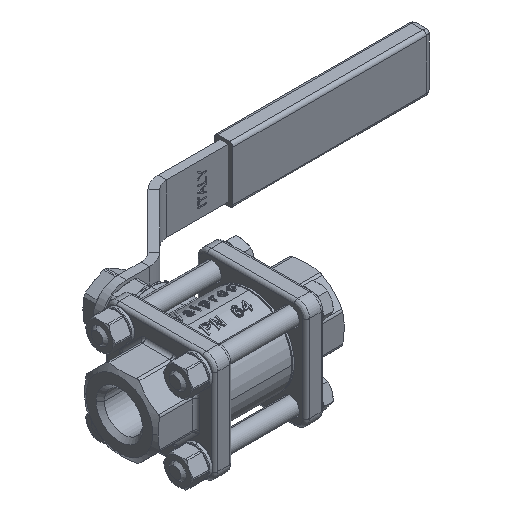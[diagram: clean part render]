
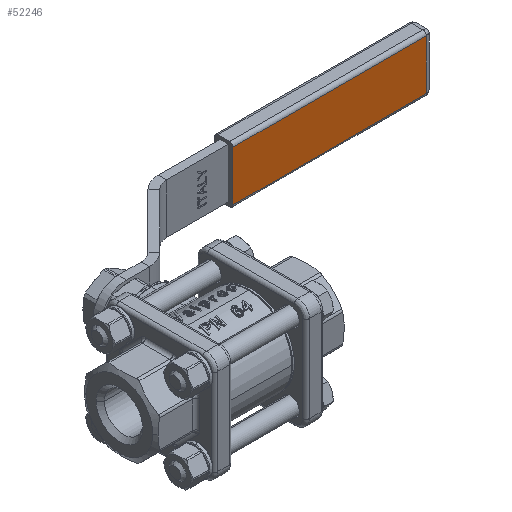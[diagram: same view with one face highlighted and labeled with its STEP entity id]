
A CAD part, isometric view. The second image highlights one B-rep face of the part: STEP entity #52246.
In plain terms, the highlighted planar face has unit normal (0, -1, 0).
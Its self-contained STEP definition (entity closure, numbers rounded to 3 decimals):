
#6777 = CARTESIAN_POINT ( 'NONE',  ( 108.5, 44.95, -7.5 ) ) ;
#6829 = CARTESIAN_POINT ( 'NONE',  ( 50.5, 44.95, -7.5 ) ) ;
#7060 = CARTESIAN_POINT ( 'NONE',  ( 108.5, 44.95, 7.5 ) ) ;
#7298 = CARTESIAN_POINT ( 'NONE',  ( 50.5, 44.95, 7.5 ) ) ;
#7299 = DIRECTION ( 'NONE',  ( -1., 0., 0. ) ) ;
#7300 = VECTOR ( 'NONE', #7299, 1000. ) ;
#7301 = CARTESIAN_POINT ( 'NONE',  ( 50.5, 44.95, 7.5 ) ) ;
#7307 = LINE ( 'NONE', #7301, #7300 ) ;
#7313 = DIRECTION ( 'NONE',  ( 0., 0., 1. ) ) ;
#7314 = VECTOR ( 'NONE', #7313, 1000. ) ;
#7315 = CARTESIAN_POINT ( 'NONE',  ( 108.5, 44.95, 7.5 ) ) ;
#7320 = LINE ( 'NONE', #7315, #7314 ) ;
#7324 = DIRECTION ( 'NONE',  ( 0., 0., 1. ) ) ;
#7325 = VECTOR ( 'NONE', #7324, 1000. ) ;
#7326 = CARTESIAN_POINT ( 'NONE',  ( 50.5, 44.95, -8.5 ) ) ;
#7327 = LINE ( 'NONE', #7326, #7325 ) ;
#7328 = DIRECTION ( 'NONE',  ( 0., 0., -1. ) ) ;
#7329 = DIRECTION ( 'NONE',  ( 0., -1., 0. ) ) ;
#7330 = CARTESIAN_POINT ( 'NONE',  ( 50.5, 44.95, 7.5 ) ) ;
#7331 = AXIS2_PLACEMENT_3D ( 'NONE', #7330, #7329, #7328 ) ;
#7332 = PLANE ( 'NONE',  #7331 ) ;
#7333 = FACE_OUTER_BOUND ( 'NONE', #52249, .T. ) ;
#7343 = DIRECTION ( 'NONE',  ( 1., 0., 0. ) ) ;
#7344 = VECTOR ( 'NONE', #7343, 1000. ) ;
#7345 = CARTESIAN_POINT ( 'NONE',  ( 50.5, 44.95, -7.5 ) ) ;
#7346 = LINE ( 'NONE', #7345, #7344 ) ;
#51990 = VERTEX_POINT ( 'NONE', #6777 ) ;
#52069 = VERTEX_POINT ( 'NONE', #6829 ) ;
#52123 = VERTEX_POINT ( 'NONE', #7060 ) ;
#52192 = EDGE_CURVE ( 'NONE', #51990, #52123, #7320, .T. ) ;
#52202 = EDGE_CURVE ( 'NONE', #52123, #52204, #7307, .T. ) ;
#52204 = VERTEX_POINT ( 'NONE', #7298 ) ;
#52226 = EDGE_CURVE ( 'NONE', #52069, #51990, #7346, .T. ) ;
#52246 = ADVANCED_FACE ( 'NONE', ( #7333 ), #7332, .T. ) ;
#52249 = EDGE_LOOP ( 'NONE', ( #52251, #52253, #52258, #52375 ) ) ;
#52251 = ORIENTED_EDGE ( 'NONE', *, *, #52202, .T. ) ;
#52253 = ORIENTED_EDGE ( 'NONE', *, *, #52255, .F. ) ;
#52255 = EDGE_CURVE ( 'NONE', #52069, #52204, #7327, .T. ) ;
#52258 = ORIENTED_EDGE ( 'NONE', *, *, #52226, .T. ) ;
#52375 = ORIENTED_EDGE ( 'NONE', *, *, #52192, .T. ) ;
